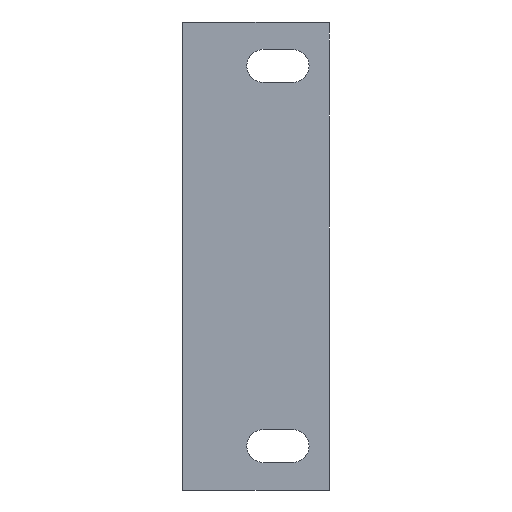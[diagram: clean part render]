
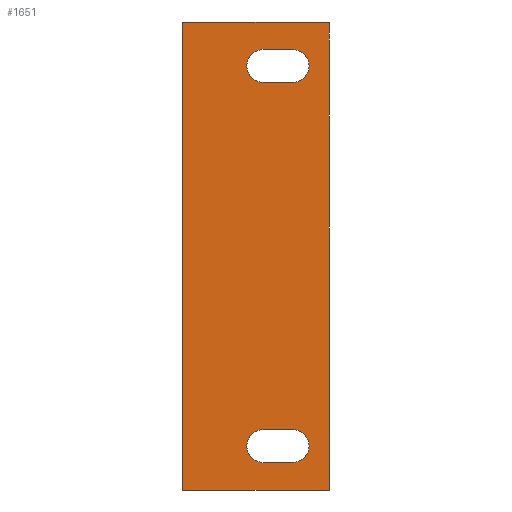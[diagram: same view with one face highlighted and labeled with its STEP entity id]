
A CAD part, front view. The second image highlights one B-rep face of the part: STEP entity #1651.
In plain terms, the highlighted planar face has unit normal (0, -1, 0).
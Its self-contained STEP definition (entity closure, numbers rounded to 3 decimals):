
#18 = ORIENTED_EDGE ( 'NONE', *, *, #2598, .F. ) ;
#44 = ORIENTED_EDGE ( 'NONE', *, *, #114, .T. ) ;
#50 = EDGE_CURVE ( 'NONE', #2746, #170, #2503, .T. ) ;
#85 = ORIENTED_EDGE ( 'NONE', *, *, #2104, .F. ) ;
#88 = VERTEX_POINT ( 'NONE', #2121 ) ;
#91 = VECTOR ( 'NONE', #845, 1000. ) ;
#114 = EDGE_CURVE ( 'NONE', #325, #2746, #1003, .T. ) ;
#139 = VECTOR ( 'NONE', #351, 1000. ) ;
#170 = VERTEX_POINT ( 'NONE', #391 ) ;
#184 = FACE_BOUND ( 'NONE', #982, .T. ) ;
#198 = DIRECTION ( 'NONE',  ( 0., 1., 0. ) ) ;
#200 = CARTESIAN_POINT ( 'NONE',  ( 15., 0., -28.25 ) ) ;
#219 = VERTEX_POINT ( 'NONE', #2426 ) ;
#268 = CARTESIAN_POINT ( 'NONE',  ( 11., 0., 23.75 ) ) ;
#325 = VERTEX_POINT ( 'NONE', #447 ) ;
#351 = DIRECTION ( 'NONE',  ( 1., 0., 0. ) ) ;
#361 = DIRECTION ( 'NONE',  ( 1., 0., 0. ) ) ;
#374 = DIRECTION ( 'NONE',  ( 0., -1., 0. ) ) ;
#391 = CARTESIAN_POINT ( 'NONE',  ( 15., 0., 23.75 ) ) ;
#400 = CARTESIAN_POINT ( 'NONE',  ( 11., 0., -26. ) ) ;
#402 = CARTESIAN_POINT ( 'NONE',  ( 11., 0., 26. ) ) ;
#426 = CIRCLE ( 'NONE', #2604, 2.25 ) ;
#433 = PLANE ( 'NONE',  #1161 ) ;
#447 = CARTESIAN_POINT ( 'NONE',  ( 11., 0., 28.25 ) ) ;
#450 = EDGE_CURVE ( 'NONE', #2530, #857, #2796, .T. ) ;
#466 = AXIS2_PLACEMENT_3D ( 'NONE', #2788, #1915, #756 ) ;
#520 = EDGE_CURVE ( 'NONE', #2530, #1335, #2783, .T. ) ;
#573 = CIRCLE ( 'NONE', #2390, 2.25 ) ;
#591 = ORIENTED_EDGE ( 'NONE', *, *, #2412, .F. ) ;
#604 = CARTESIAN_POINT ( 'NONE',  ( 11., 0., 26. ) ) ;
#606 = EDGE_CURVE ( 'NONE', #219, #325, #1455, .T. ) ;
#630 = DIRECTION ( 'NONE',  ( 1., 0., 0. ) ) ;
#645 = CARTESIAN_POINT ( 'NONE',  ( 20., 0., 32. ) ) ;
#679 = ORIENTED_EDGE ( 'NONE', *, *, #2347, .T. ) ;
#685 = ORIENTED_EDGE ( 'NONE', *, *, #1371, .F. ) ;
#741 = CIRCLE ( 'NONE', #2317, 2.25 ) ;
#751 = DIRECTION ( 'NONE',  ( 0., 0., -1. ) ) ;
#756 = DIRECTION ( 'NONE',  ( 1., 0., 0. ) ) ;
#845 = DIRECTION ( 'NONE',  ( -1., 0., 0. ) ) ;
#847 = CIRCLE ( 'NONE', #2228, 2.25 ) ;
#854 = DIRECTION ( 'NONE',  ( 0., 1., 0. ) ) ;
#857 = VERTEX_POINT ( 'NONE', #1052 ) ;
#864 = DIRECTION ( 'NONE',  ( 1., 0., 0. ) ) ;
#865 = CARTESIAN_POINT ( 'NONE',  ( 20., 0., 32. ) ) ;
#872 = ORIENTED_EDGE ( 'NONE', *, *, #1656, .T. ) ;
#904 = VECTOR ( 'NONE', #1514, 1000. ) ;
#964 = ORIENTED_EDGE ( 'NONE', *, *, #520, .F. ) ;
#982 = EDGE_LOOP ( 'NONE', ( #18, #1211, #685, #85, #591 ) ) ;
#995 = EDGE_CURVE ( 'NONE', #1335, #88, #2430, .T. ) ;
#1003 = LINE ( 'NONE', #1869, #139 ) ;
#1045 = AXIS2_PLACEMENT_3D ( 'NONE', #604, #854, #1507 ) ;
#1046 = VECTOR ( 'NONE', #864, 1000. ) ;
#1052 = CARTESIAN_POINT ( 'NONE',  ( 0., 0., -32. ) ) ;
#1080 = LINE ( 'NONE', #1961, #1046 ) ;
#1090 = ORIENTED_EDGE ( 'NONE', *, *, #50, .T. ) ;
#1161 = AXIS2_PLACEMENT_3D ( 'NONE', #2625, #198, #2402 ) ;
#1199 = CARTESIAN_POINT ( 'NONE',  ( 0., 0., 32. ) ) ;
#1211 = ORIENTED_EDGE ( 'NONE', *, *, #2376, .F. ) ;
#1319 = DIRECTION ( 'NONE',  ( 1., 0., 0. ) ) ;
#1335 = VERTEX_POINT ( 'NONE', #645 ) ;
#1371 = EDGE_CURVE ( 'NONE', #2200, #1417, #573, .T. ) ;
#1375 = DIRECTION ( 'NONE',  ( 1., 0., 0. ) ) ;
#1397 = DIRECTION ( 'NONE',  ( 1., 0., 0. ) ) ;
#1417 = VERTEX_POINT ( 'NONE', #2860 ) ;
#1452 = CARTESIAN_POINT ( 'NONE',  ( 11., 0., -23.75 ) ) ;
#1455 = CIRCLE ( 'NONE', #1045, 2.25 ) ;
#1507 = DIRECTION ( 'NONE',  ( 1., 0., 0. ) ) ;
#1509 = VECTOR ( 'NONE', #1397, 1000. ) ;
#1514 = DIRECTION ( 'NONE',  ( -1., 0., 0. ) ) ;
#1552 = VECTOR ( 'NONE', #751, 1000. ) ;
#1553 = LINE ( 'NONE', #2678, #904 ) ;
#1605 = ORIENTED_EDGE ( 'NONE', *, *, #450, .T. ) ;
#1651 = ADVANCED_FACE ( 'NONE', ( #2756, #2191, #184 ), #433, .F. ) ;
#1656 = EDGE_CURVE ( 'NONE', #170, #1880, #2414, .T. ) ;
#1683 = CARTESIAN_POINT ( 'NONE',  ( 15., 0., 28.25 ) ) ;
#1744 = CARTESIAN_POINT ( 'NONE',  ( 11., 0., -26. ) ) ;
#1754 = LINE ( 'NONE', #200, #2012 ) ;
#1783 = CARTESIAN_POINT ( 'NONE',  ( 15., 0., -28.25 ) ) ;
#1825 = VECTOR ( 'NONE', #2234, 1000. ) ;
#1864 = CARTESIAN_POINT ( 'NONE',  ( 20., 0., 32. ) ) ;
#1869 = CARTESIAN_POINT ( 'NONE',  ( 15., 0., 28.25 ) ) ;
#1880 = VERTEX_POINT ( 'NONE', #268 ) ;
#1896 = CARTESIAN_POINT ( 'NONE',  ( 15., 0., -26. ) ) ;
#1915 = DIRECTION ( 'NONE',  ( 0., 1., 0. ) ) ;
#1939 = DIRECTION ( 'NONE',  ( 1., 0., 0. ) ) ;
#1961 = CARTESIAN_POINT ( 'NONE',  ( 20., 0., -32. ) ) ;
#1976 = DIRECTION ( 'NONE',  ( 0., -1., 0. ) ) ;
#2012 = VECTOR ( 'NONE', #1319, 1000. ) ;
#2045 = DIRECTION ( 'NONE',  ( 0., -1., 0. ) ) ;
#2049 = EDGE_LOOP ( 'NONE', ( #44, #1090, #872, #2233, #2509 ) ) ;
#2104 = EDGE_CURVE ( 'NONE', #2254, #2200, #741, .T. ) ;
#2121 = CARTESIAN_POINT ( 'NONE',  ( 20., 0., -32. ) ) ;
#2191 = FACE_BOUND ( 'NONE', #2049, .T. ) ;
#2200 = VERTEX_POINT ( 'NONE', #2373 ) ;
#2228 = AXIS2_PLACEMENT_3D ( 'NONE', #402, #2445, #1939 ) ;
#2233 = ORIENTED_EDGE ( 'NONE', *, *, #2823, .T. ) ;
#2234 = DIRECTION ( 'NONE',  ( 0., 0., -1. ) ) ;
#2254 = VERTEX_POINT ( 'NONE', #1452 ) ;
#2317 = AXIS2_PLACEMENT_3D ( 'NONE', #400, #2045, #1375 ) ;
#2334 = CARTESIAN_POINT ( 'NONE',  ( 15., 0., -23.75 ) ) ;
#2347 = EDGE_CURVE ( 'NONE', #857, #88, #1080, .T. ) ;
#2373 = CARTESIAN_POINT ( 'NONE',  ( 8.75, 0., -26. ) ) ;
#2376 = EDGE_CURVE ( 'NONE', #1417, #2458, #1754, .T. ) ;
#2381 = ORIENTED_EDGE ( 'NONE', *, *, #995, .F. ) ;
#2390 = AXIS2_PLACEMENT_3D ( 'NONE', #1744, #1976, #630 ) ;
#2402 = DIRECTION ( 'NONE',  ( 1., 0., 0. ) ) ;
#2412 = EDGE_CURVE ( 'NONE', #2696, #2254, #1553, .T. ) ;
#2414 = LINE ( 'NONE', #2637, #91 ) ;
#2426 = CARTESIAN_POINT ( 'NONE',  ( 8.75, 0., 26. ) ) ;
#2430 = LINE ( 'NONE', #865, #1825 ) ;
#2445 = DIRECTION ( 'NONE',  ( 0., 1., 0. ) ) ;
#2458 = VERTEX_POINT ( 'NONE', #1783 ) ;
#2482 = EDGE_LOOP ( 'NONE', ( #679, #2381, #964, #1605 ) ) ;
#2503 = CIRCLE ( 'NONE', #466, 2.25 ) ;
#2508 = CARTESIAN_POINT ( 'NONE',  ( 0., 0., 32. ) ) ;
#2509 = ORIENTED_EDGE ( 'NONE', *, *, #606, .T. ) ;
#2530 = VERTEX_POINT ( 'NONE', #2508 ) ;
#2598 = EDGE_CURVE ( 'NONE', #2458, #2696, #426, .T. ) ;
#2604 = AXIS2_PLACEMENT_3D ( 'NONE', #1896, #374, #361 ) ;
#2625 = CARTESIAN_POINT ( 'NONE',  ( 20., 0., 32. ) ) ;
#2637 = CARTESIAN_POINT ( 'NONE',  ( 11., 0., 23.75 ) ) ;
#2678 = CARTESIAN_POINT ( 'NONE',  ( 11., 0., -23.75 ) ) ;
#2696 = VERTEX_POINT ( 'NONE', #2334 ) ;
#2746 = VERTEX_POINT ( 'NONE', #1683 ) ;
#2756 = FACE_OUTER_BOUND ( 'NONE', #2482, .T. ) ;
#2783 = LINE ( 'NONE', #1864, #1509 ) ;
#2788 = CARTESIAN_POINT ( 'NONE',  ( 15., 0., 26. ) ) ;
#2796 = LINE ( 'NONE', #1199, #1552 ) ;
#2823 = EDGE_CURVE ( 'NONE', #1880, #219, #847, .T. ) ;
#2860 = CARTESIAN_POINT ( 'NONE',  ( 11., 0., -28.25 ) ) ;
